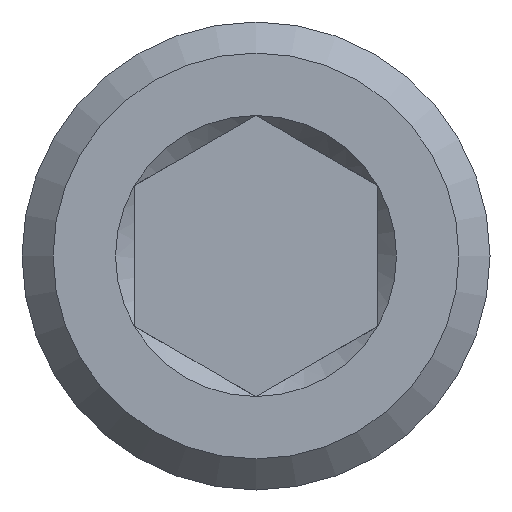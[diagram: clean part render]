
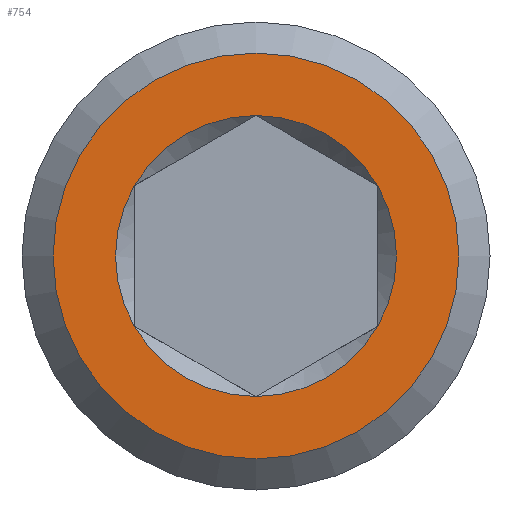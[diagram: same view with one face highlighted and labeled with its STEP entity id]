
A CAD part, front view. The second image highlights one B-rep face of the part: STEP entity #754.
In plain terms, the highlighted planar face has unit normal (0, -1, 0).
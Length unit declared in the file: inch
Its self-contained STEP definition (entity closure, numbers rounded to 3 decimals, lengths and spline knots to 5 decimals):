
#16=FACE_BOUND('',#160,.T.);
#60=CIRCLE('',#809,0.09);
#61=CIRCLE('',#811,0.09);
#62=CIRCLE('',#813,0.09);
#63=CIRCLE('',#815,0.09);
#64=CIRCLE('',#817,0.09);
#65=CIRCLE('',#819,0.09);
#74=CIRCLE('',#840,0.13);
#116=FACE_OUTER_BOUND('',#159,.T.);
#159=EDGE_LOOP('',(#656));
#160=EDGE_LOOP('',(#657,#658,#659,#660,#661,#662,#663,#664,#665,#666,#667,
#668,#669,#670,#671,#672,#673,#674));
#201=LINE('',#1273,#256);
#205=LINE('',#1280,#260);
#206=LINE('',#1287,#261);
#209=LINE('',#1292,#264);
#210=LINE('',#1299,#265);
#213=LINE('',#1304,#268);
#214=LINE('',#1312,#269);
#217=LINE('',#1316,#272);
#218=LINE('',#1324,#273);
#221=LINE('',#1328,#276);
#222=LINE('',#1335,#277);
#224=LINE('',#1337,#279);
#256=VECTOR('',#931,0.3937);
#260=VECTOR('',#935,0.3937);
#261=VECTOR('',#938,0.3937);
#264=VECTOR('',#941,0.3937);
#265=VECTOR('',#944,0.3937);
#268=VECTOR('',#947,0.3937);
#269=VECTOR('',#950,0.3937);
#272=VECTOR('',#953,0.3937);
#273=VECTOR('',#956,0.3937);
#276=VECTOR('',#959,0.3937);
#277=VECTOR('',#962,0.3937);
#279=VECTOR('',#964,0.3937);
#325=VERTEX_POINT('',#1267);
#326=VERTEX_POINT('',#1268);
#327=VERTEX_POINT('',#1272);
#330=VERTEX_POINT('',#1278);
#331=VERTEX_POINT('',#1282);
#332=VERTEX_POINT('',#1283);
#334=VERTEX_POINT('',#1290);
#335=VERTEX_POINT('',#1294);
#336=VERTEX_POINT('',#1295);
#338=VERTEX_POINT('',#1302);
#339=VERTEX_POINT('',#1306);
#340=VERTEX_POINT('',#1307);
#341=VERTEX_POINT('',#1311);
#343=VERTEX_POINT('',#1318);
#344=VERTEX_POINT('',#1319);
#345=VERTEX_POINT('',#1323);
#347=VERTEX_POINT('',#1330);
#348=VERTEX_POINT('',#1331);
#359=VERTEX_POINT('',#1424);
#412=EDGE_CURVE('',#327,#325,#201,.T.);
#416=EDGE_CURVE('',#326,#330,#205,.T.);
#418=EDGE_CURVE('',#330,#331,#206,.T.);
#421=EDGE_CURVE('',#332,#334,#209,.T.);
#423=EDGE_CURVE('',#334,#335,#210,.T.);
#426=EDGE_CURVE('',#336,#338,#213,.T.);
#428=EDGE_CURVE('',#341,#339,#214,.T.);
#431=EDGE_CURVE('',#340,#327,#217,.T.);
#433=EDGE_CURVE('',#345,#343,#218,.T.);
#436=EDGE_CURVE('',#344,#341,#221,.T.);
#438=EDGE_CURVE('',#338,#347,#222,.T.);
#440=EDGE_CURVE('',#348,#345,#224,.T.);
#441=EDGE_CURVE('',#332,#331,#60,.T.);
#442=EDGE_CURVE('',#336,#335,#61,.T.);
#443=EDGE_CURVE('',#348,#347,#62,.T.);
#444=EDGE_CURVE('',#344,#343,#63,.T.);
#445=EDGE_CURVE('',#340,#339,#64,.T.);
#446=EDGE_CURVE('',#326,#325,#65,.T.);
#467=EDGE_CURVE('',#359,#359,#74,.T.);
#656=ORIENTED_EDGE('',*,*,#467,.F.);
#657=ORIENTED_EDGE('',*,*,#412,.T.);
#658=ORIENTED_EDGE('',*,*,#446,.F.);
#659=ORIENTED_EDGE('',*,*,#416,.T.);
#660=ORIENTED_EDGE('',*,*,#418,.T.);
#661=ORIENTED_EDGE('',*,*,#441,.F.);
#662=ORIENTED_EDGE('',*,*,#421,.T.);
#663=ORIENTED_EDGE('',*,*,#423,.T.);
#664=ORIENTED_EDGE('',*,*,#442,.F.);
#665=ORIENTED_EDGE('',*,*,#426,.T.);
#666=ORIENTED_EDGE('',*,*,#438,.T.);
#667=ORIENTED_EDGE('',*,*,#443,.F.);
#668=ORIENTED_EDGE('',*,*,#440,.T.);
#669=ORIENTED_EDGE('',*,*,#433,.T.);
#670=ORIENTED_EDGE('',*,*,#444,.F.);
#671=ORIENTED_EDGE('',*,*,#436,.T.);
#672=ORIENTED_EDGE('',*,*,#428,.T.);
#673=ORIENTED_EDGE('',*,*,#445,.F.);
#674=ORIENTED_EDGE('',*,*,#431,.T.);
#715=PLANE('',#839);
#754=ADVANCED_FACE('',(#116,#16),#715,.T.);
#809=AXIS2_PLACEMENT_3D('',#1339,#967,#968);
#811=AXIS2_PLACEMENT_3D('',#1341,#971,#972);
#813=AXIS2_PLACEMENT_3D('',#1343,#975,#976);
#815=AXIS2_PLACEMENT_3D('',#1345,#979,#980);
#817=AXIS2_PLACEMENT_3D('',#1347,#983,#984);
#819=AXIS2_PLACEMENT_3D('',#1349,#987,#988);
#839=AXIS2_PLACEMENT_3D('',#1423,#1035,#1036);
#840=AXIS2_PLACEMENT_3D('',#1425,#1037,#1038);
#931=DIRECTION('',(0.,0.,1.));
#935=DIRECTION('',(0.,0.,1.));
#938=DIRECTION('',(0.866,0.,0.5));
#941=DIRECTION('',(0.866,0.,0.5));
#944=DIRECTION('',(0.866,0.,-0.5));
#947=DIRECTION('',(0.866,0.,-0.5));
#950=DIRECTION('',(-0.866,0.,0.5));
#953=DIRECTION('',(-0.866,0.,0.5));
#956=DIRECTION('',(-0.866,0.,-0.5));
#959=DIRECTION('',(-0.866,0.,-0.5));
#962=DIRECTION('',(0.,0.,-1.));
#964=DIRECTION('',(0.,0.,-1.));
#967=DIRECTION('center_axis',(0.,-1.,0.));
#968=DIRECTION('ref_axis',(0.,0.,1.));
#971=DIRECTION('center_axis',(0.,-1.,0.));
#972=DIRECTION('ref_axis',(0.,0.,1.));
#975=DIRECTION('center_axis',(0.,-1.,0.));
#976=DIRECTION('ref_axis',(0.,0.,1.));
#979=DIRECTION('center_axis',(0.,-1.,0.));
#980=DIRECTION('ref_axis',(0.,0.,1.));
#983=DIRECTION('center_axis',(0.,-1.,0.));
#984=DIRECTION('ref_axis',(0.,0.,1.));
#987=DIRECTION('center_axis',(0.,-1.,0.));
#988=DIRECTION('ref_axis',(0.,0.,1.));
#1035=DIRECTION('center_axis',(0.,-1.,0.));
#1036=DIRECTION('ref_axis',(0.,0.,-1.));
#1037=DIRECTION('center_axis',(0.,1.,0.));
#1038=DIRECTION('ref_axis',(0.,0.,1.));
#1267=CARTESIAN_POINT('',(-0.078,0.,-0.0449));
#1268=CARTESIAN_POINT('',(-0.078,0.,0.0449));
#1272=CARTESIAN_POINT('',(-0.078,0.,-0.04503));
#1273=CARTESIAN_POINT('',(-0.078,0.,-0.06002));
#1278=CARTESIAN_POINT('',(-0.078,0.,0.04503));
#1280=CARTESIAN_POINT('',(-0.078,0.,-0.06002));
#1282=CARTESIAN_POINT('',(-0.07788,0.,0.0451));
#1283=CARTESIAN_POINT('',(-0.00012,0.,0.09));
#1287=CARTESIAN_POINT('',(-0.07474,0.,0.04692));
#1290=CARTESIAN_POINT('',(0.,0.,0.09007));
#1292=CARTESIAN_POINT('',(-0.07474,0.,0.04692));
#1294=CARTESIAN_POINT('',(0.00012,0.,0.09));
#1295=CARTESIAN_POINT('',(0.07788,0.,0.0451));
#1299=CARTESIAN_POINT('',(0.03574,0.,0.06943));
#1302=CARTESIAN_POINT('',(0.078,0.,0.04503));
#1304=CARTESIAN_POINT('',(0.03574,0.,0.06943));
#1306=CARTESIAN_POINT('',(-0.00012,0.,-0.09));
#1307=CARTESIAN_POINT('',(-0.07788,0.,-0.0451));
#1311=CARTESIAN_POINT('',(0.,0.,-0.09007));
#1312=CARTESIAN_POINT('',(-0.00326,0.,-0.08818));
#1316=CARTESIAN_POINT('',(-0.00326,0.,-0.08818));
#1318=CARTESIAN_POINT('',(0.07788,0.,-0.0451));
#1319=CARTESIAN_POINT('',(0.00012,0.,-0.09));
#1323=CARTESIAN_POINT('',(0.078,0.,-0.04503));
#1324=CARTESIAN_POINT('',(0.04226,0.,-0.06567));
#1328=CARTESIAN_POINT('',(0.04226,0.,-0.06567));
#1330=CARTESIAN_POINT('',(0.078,0.,0.0449));
#1331=CARTESIAN_POINT('',(0.078,0.,-0.0449));
#1335=CARTESIAN_POINT('',(0.078,0.,-0.01498));
#1337=CARTESIAN_POINT('',(0.078,0.,-0.01498));
#1339=CARTESIAN_POINT('Origin',(0.,0.,0.));
#1341=CARTESIAN_POINT('Origin',(0.,0.,0.));
#1343=CARTESIAN_POINT('Origin',(0.,0.,0.));
#1345=CARTESIAN_POINT('Origin',(0.,0.,0.));
#1347=CARTESIAN_POINT('Origin',(0.,0.,0.));
#1349=CARTESIAN_POINT('Origin',(0.,0.,0.));
#1423=CARTESIAN_POINT('Origin',(0.,0.,-0.075));
#1424=CARTESIAN_POINT('',(0.,0.,-0.13));
#1425=CARTESIAN_POINT('Origin',(0.,0.,0.));
